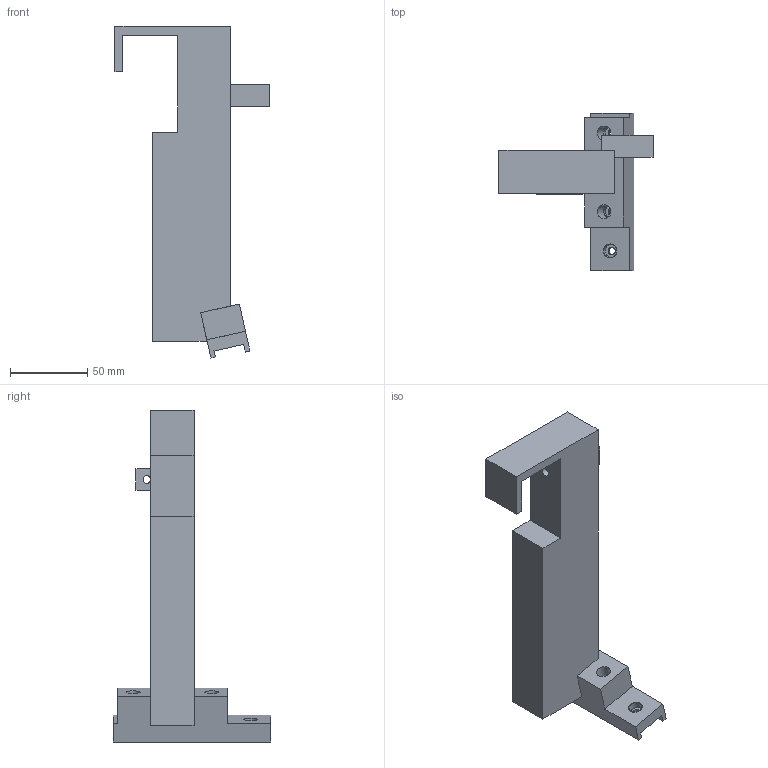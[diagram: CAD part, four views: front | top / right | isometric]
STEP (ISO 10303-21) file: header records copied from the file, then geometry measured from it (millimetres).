
FILE_DESCRIPTION(('Open CASCADE Model'),'2;1');
FILE_NAME('Open CASCADE Shape Model','2026-10-17T23:13:29',('Author'),( 'Open CASCADE'),'Open CASCADE STEP processor 7.9','Open CASCADE 7.9' ,'Unknown');
FILE_SCHEMA(('AUTOMOTIVE_DESIGN { 1 0 10303 214 1 1 1 1 }'));
Length unit declared in the file: millimetre
Products named in the file (1): Open CASCADE STEP translator 7.9 2
Bounding box: 99.56 x 101.6 x 214.56 mm (x, y, z)
Volume: 314647.8 mm3; surface area: 50881.1 mm2
Topology: 1 solids, 1 shells, 55 faces, 132 edges, 88 vertices
Faces by surface type: plane 41, cylinder 14
Full cylindrical faces by diameter (mm): 3 x2, 3.4 x1, 4.8 x3, 4.9 x1, 5.6 x1, 8.4 x3, 9 x3
Entity records: 3363 total; most frequent: CARTESIAN_POINT 688, DIRECTION 483, LINE 306, VECTOR 306, ORIENTED_EDGE 264, PCURVE 264, DEFINITIONAL_REPRESENTATION 264, EDGE_CURVE 132
